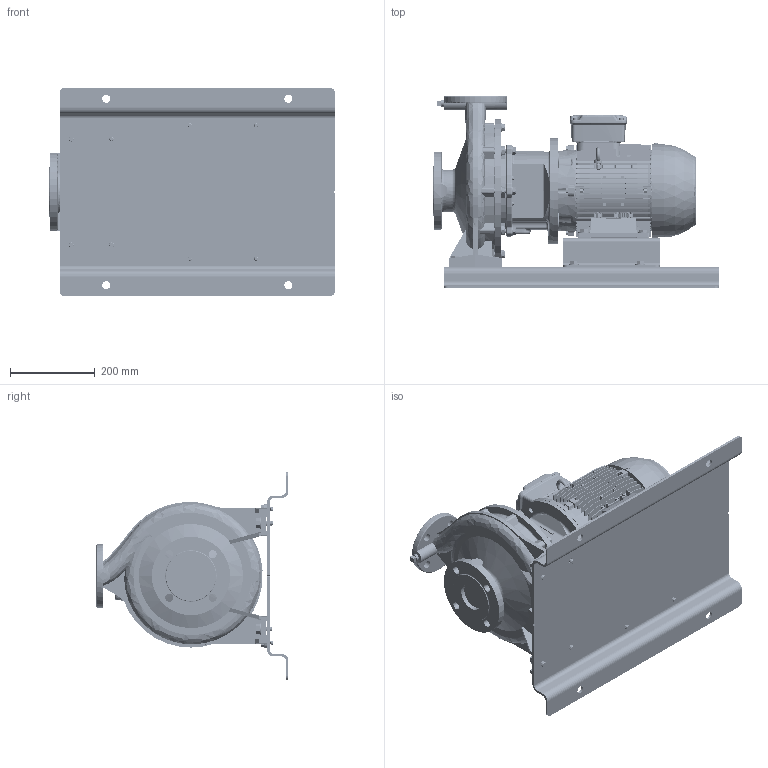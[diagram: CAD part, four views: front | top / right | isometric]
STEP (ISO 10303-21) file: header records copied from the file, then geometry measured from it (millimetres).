
FILE_DESCRIPTION (( 'STEP AP214' ), '1' );
FILE_NAME ('GSD4 40-250_4.0_(112M)_W21_BP.STEP', '2024-08-08T05:41:57', ( '' ), ( '' ), 'SwSTEP 2.0', 'SolidWorks 2019', '' );
FILE_SCHEMA (( 'AUTOMOTIVE_DESIGN' ));
Length unit declared in the file: millimetre
Products named in the file (22): 140_178 x 68 BP - 271472191; Parametric Flat Washer_M10; Parametric bolt and washer_SFT-A253B; Parametric bolt and washer_SFT-A299B; Parametric bolt and washer_SFT-A249B; Parametric Flat Washer_M12; Parametric bolt_SFT-A299B; Parametric bolt_SFT-A249B; 112M ALIE3_W21T_B35; 40-250-112M_______; Parametric bolt_SFT-A253B; GSD4 40-250_4.0_(112M)_W21_BP; N5S5 GSDA-554 F1-1832917-00
Assembly tree (40 placements, depth 3):
  GSD4 40-250_4.0_(112M)_W21_BP
    40-250-112M_______
    112M ALIE3_W21T_B35
    N5S5 GSDA-554 F1-1832917-00
    140_178 x 68 BP - 271472191
    Parametric bolt and washer_SFT-A249B
      Parametric bolt_SFT-A249B
      Parametric Flat Washer_M10
    Parametric bolt and washer_SFT-A249B
      Parametric bolt_SFT-A249B
      Parametric Flat Washer_M10
    Parametric bolt and washer_SFT-A249B
      Parametric bolt_SFT-A249B
      Parametric Flat Washer_M10
    Parametric bolt and washer_SFT-A249B
      Parametric bolt_SFT-A249B
      Parametric Flat Washer_M10
    Parametric bolt and washer_SFT-A253B
      Parametric bolt_SFT-A253B
      Parametric Flat Washer_M10
    Parametric bolt and washer_SFT-A253B
      Parametric bolt_SFT-A253B
      Parametric Flat Washer_M10
    Parametric bolt and washer_SFT-A253B
      Parametric bolt_SFT-A253B
      Parametric Flat Washer_M10
    Parametric bolt and washer_SFT-A253B
      Parametric bolt_SFT-A253B
      Parametric Flat Washer_M10
    Parametric bolt and washer_SFT-A299B
      Parametric bolt_SFT-A299B
      Parametric Flat Washer_M12
    Parametric bolt and washer_SFT-A299B
      Parametric bolt_SFT-A299B
      Parametric Flat Washer_M12
    Parametric bolt and washer_SFT-A299B
      Parametric bolt_SFT-A299B
      Parametric Flat Washer_M12
    Parametric bolt and washer_SFT-A299B
      Parametric bolt_SFT-A299B
      Parametric Flat Washer_M12
Bounding box: 675 x 455 x 490 mm (x, y, z)
Volume: 24325165.9 mm3; surface area: 2531080.3 mm2
Topology: 48 solids, 50 shells, 5463 faces, 14492 edges, 9404 vertices
Faces by surface type: plane 2802, cylinder 1351, bspline 508, cone 419, torus 372, sphere 11
Entity records: 209889 total; most frequent: CARTESIAN_POINT 90998, ORIENTED_EDGE 26440, DIRECTION 21806, EDGE_CURVE 13220, VERTEX_POINT 8588, LINE 7338, VECTOR 7338, AXIS2_PLACEMENT_3D 7234
